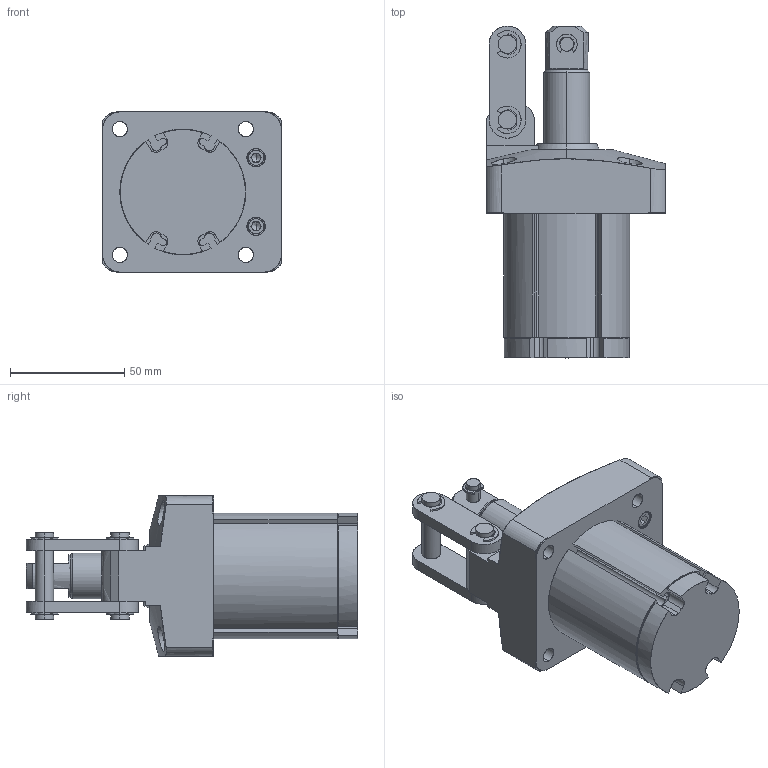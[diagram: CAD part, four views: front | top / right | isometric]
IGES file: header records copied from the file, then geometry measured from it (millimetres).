
Start section: Comment
Global section: file name: jss32-30.igs; native system:  By Spatial Corp.; preprocessor: XPlus GENERIC/IGES 3.0; author: Author; organization: Title; date: 20080526.131916; units: millimetre
Bounding box: 78 x 145 x 70 mm (x, y, z)
Surface area: 64154.3 mm2 (no closed solid volume)
Topology: 0 solids, 0 shells, 475 faces, 2508 edges, 2496 vertices
Faces by surface type: bspline 475
